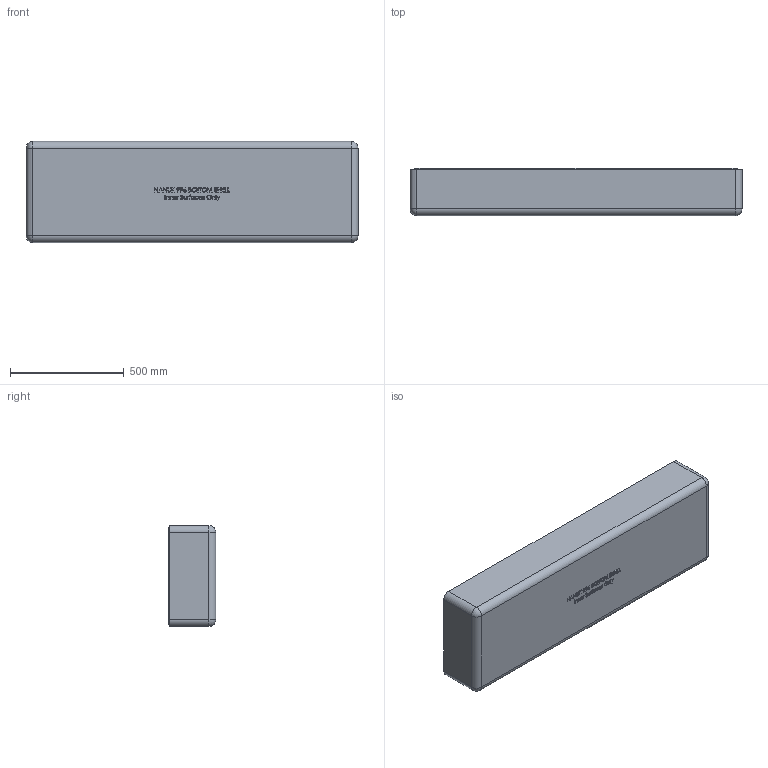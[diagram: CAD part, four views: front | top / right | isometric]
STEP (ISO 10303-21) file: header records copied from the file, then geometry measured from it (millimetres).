
FILE_DESCRIPTION (( 'STEP AP203' ), '1' );
FILE_NAME ('996_BOTTOM INNER SURFACE_step.STEP', '2023-02-01T20:56:27', ( 'Sylvain' ), ( '' ), 'SwSTEP 2.0', 'SolidWorks 2022', '' );
FILE_SCHEMA (( 'CONFIG_CONTROL_DESIGN' ));
Products named in the file (1): 996_BOTTOM INNER SURFACE_step
Bounding box: 1460.5 x 209.02 x 444.5 mm (x, y, z)
Volume: 36687304.8 mm3; surface area: 2650428 mm2
Topology: 1 solids, 1 shells, 3368 faces, 8281 edges, 4622 vertices
Faces by surface type: bspline 1773, plane 639, cylinder 524, torus 168, sphere 140, cone 124
Entity records: 176488 total; most frequent: CARTESIAN_POINT 112675, ORIENTED_EDGE 15818, DIRECTION 9789, EDGE_CURVE 7909, VERTEX_POINT 4622, AXIS2_PLACEMENT_3D 3760, EDGE_LOOP 3451, ADVANCED_FACE 3368
